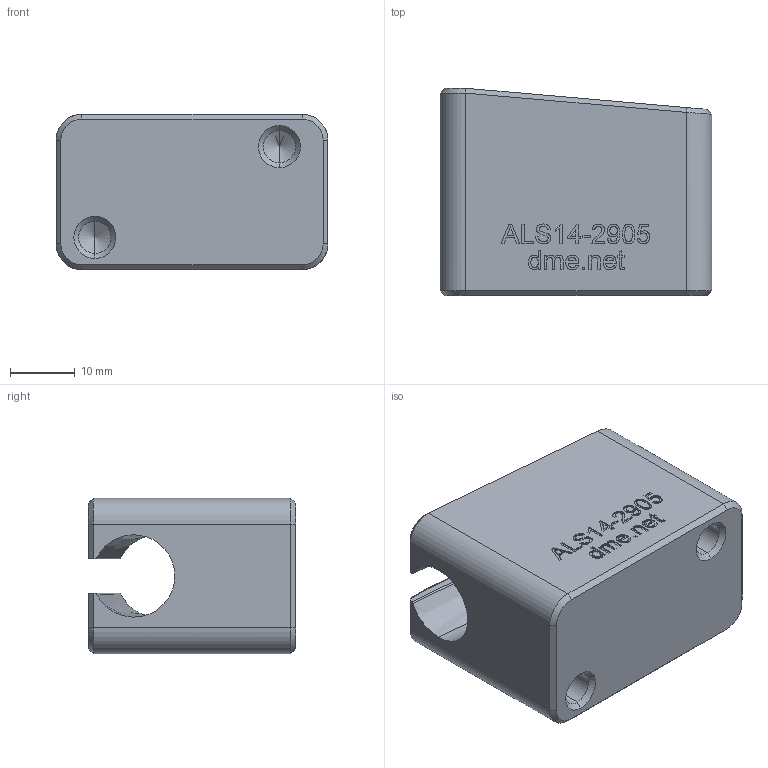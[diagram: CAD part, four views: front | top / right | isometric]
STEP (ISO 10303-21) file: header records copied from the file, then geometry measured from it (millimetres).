
FILE_DESCRIPTION (( 'STEP AP203' ), '1' );
FILE_NAME ('ALS14-2905.STEP', '2021-01-10T21:38:56', ( '' ), ( '' ), 'SwSTEP 2.0', 'SolidWorks 2020', '' );
FILE_SCHEMA (( 'CONFIG_CONTROL_DESIGN' ));
Length unit declared in the file: millimetre
Products named in the file (1): ALS14-2905
Bounding box: 42 x 32 x 24 mm (x, y, z)
Volume: 24264.7 mm3; surface area: 7093.9 mm2
Topology: 1 solids, 1 shells, 282 faces, 742 edges, 484 vertices
Faces by surface type: plane 145, bspline 109, cone 14, cylinder 14
Entity records: 14621 total; most frequent: CARTESIAN_POINT 8382, ORIENTED_EDGE 1476, DIRECTION 876, EDGE_CURVE 738, VERTEX_POINT 484, LINE 480, VECTOR 480, EDGE_LOOP 308
